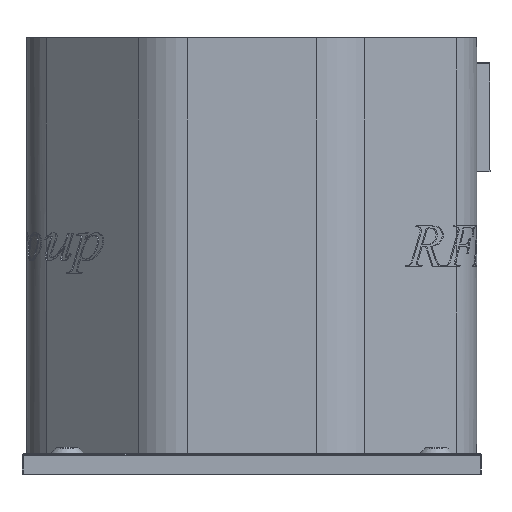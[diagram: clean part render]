
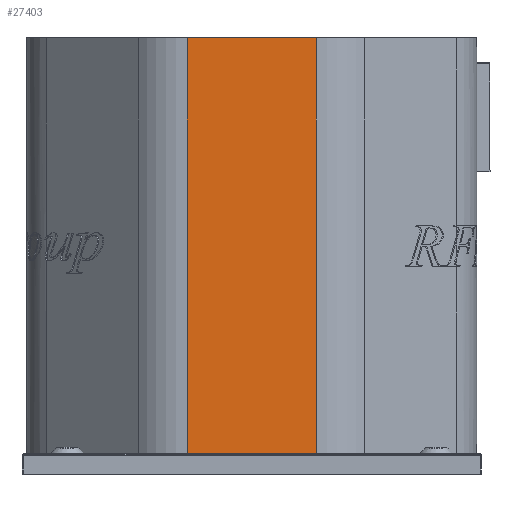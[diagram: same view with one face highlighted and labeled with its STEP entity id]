
A CAD part, front view. The second image highlights one B-rep face of the part: STEP entity #27403.
In plain terms, the highlighted planar face has unit normal (0, -1, 0).
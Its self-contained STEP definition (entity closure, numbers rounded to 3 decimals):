
#1031=PLANE('',#29027);
#2312=FACE_OUTER_BOUND('',#3788,.T.);
#3788=EDGE_LOOP('',(#22179,#22180,#22181,#22182));
#7292=LINE('',#46316,#9808);
#7293=LINE('',#46320,#9809);
#7294=LINE('',#46322,#9810);
#7295=LINE('',#46323,#9811);
#9808=VECTOR('',#33268,10.);
#9809=VECTOR('',#33273,10.);
#9810=VECTOR('',#33274,10.);
#9811=VECTOR('',#33275,10.);
#12638=VERTEX_POINT('',#46313);
#12639=VERTEX_POINT('',#46315);
#12640=VERTEX_POINT('',#46319);
#12641=VERTEX_POINT('',#46321);
#16112=EDGE_CURVE('',#12639,#12638,#7292,.T.);
#16114=EDGE_CURVE('',#12640,#12638,#7293,.T.);
#16115=EDGE_CURVE('',#12641,#12640,#7294,.T.);
#16116=EDGE_CURVE('',#12641,#12639,#7295,.T.);
#22179=ORIENTED_EDGE('',*,*,#16114,.F.);
#22180=ORIENTED_EDGE('',*,*,#16115,.F.);
#22181=ORIENTED_EDGE('',*,*,#16116,.T.);
#22182=ORIENTED_EDGE('',*,*,#16112,.T.);
#27403=ADVANCED_FACE('',(#2312),#1031,.T.);
#29027=AXIS2_PLACEMENT_3D('',#46318,#33271,#33272);
#33268=DIRECTION('',(0.,0.,-1.));
#33271=DIRECTION('center_axis',(0.,-1.,0.));
#33272=DIRECTION('ref_axis',(-1.,0.,0.));
#33273=DIRECTION('',(-1.,0.,0.));
#33274=DIRECTION('',(0.,0.,-1.));
#33275=DIRECTION('',(-1.,0.,0.));
#46313=CARTESIAN_POINT('',(462.719,275.667,317.317));
#46315=CARTESIAN_POINT('',(462.719,275.667,824.317));
#46316=CARTESIAN_POINT('',(462.719,275.667,824.317));
#46318=CARTESIAN_POINT('Origin',(620.234,275.667,824.317));
#46319=CARTESIAN_POINT('',(620.234,275.667,317.317));
#46320=CARTESIAN_POINT('',(580.855,275.667,317.317));
#46321=CARTESIAN_POINT('',(620.234,275.667,824.317));
#46322=CARTESIAN_POINT('',(620.234,275.667,824.317));
#46323=CARTESIAN_POINT('',(620.234,275.667,824.317));
